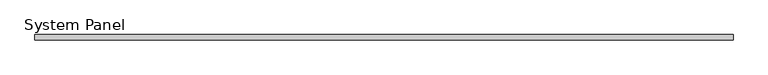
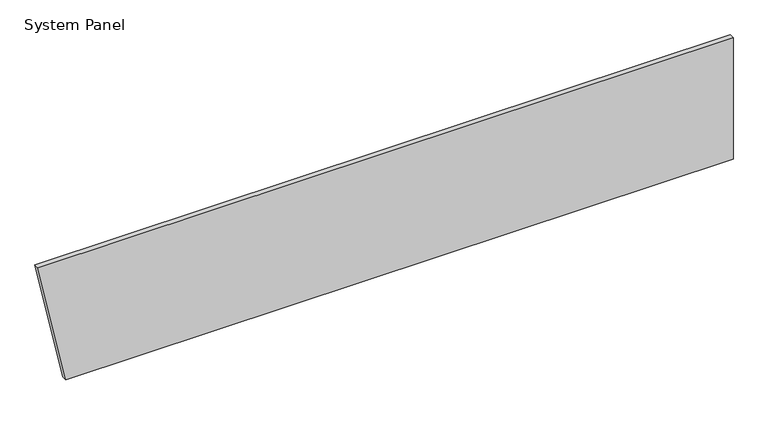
"""IFC4 building model written with IfcOpenShell, lengths in millimetres: plate geometry, System Panel : Equitilt_FlameGuard_50mm_Plain_Surfmist."""

from ifc_helpers import new_model, si_unit, frame, origin, place, context, project, spatial, polyline, outline, extrude, source, transform, mapped, element, save


def system_panel_d652f9f4(model_context):
    return source(origin(), model_context, "Body", "SweptSolid", [
        extrude(outline(polyline([(0.0, -2995.0), (0.0, 3255.8716619), (1200.0, 3255.8716619), (1200.0, -3255.8716619), (0.0, -2995.0)])), frame((0.0, -50.0, 0.0), z_axis=(0.0, 1.0, 0.0), x_axis=(0.0, 0.0, 1.0)), (0.0, 0.0, 1.0), 50.0),
    ])


if __name__ == "__main__":
    model = new_model("IFC4")
    model_context = context("Model", 3, world=origin())
    ifc_project = project(units=[si_unit("LENGTHUNIT", "METRE", prefix="MILLI")], contexts=[model_context])
    site = spatial("IfcSite", under=ifc_project)
    building = spatial("IfcBuilding", under=site)
    placement = place(None, origin())
    system_panel_shape = system_panel_d652f9f4(model_context)
    element("IfcPlate", 1, ObjectType="System Panel : Equitilt_FlameGuard_50mm_Plain_Surfmist", at=placement, inside=building, context=model_context, shape_type="MappedRepresentation", body=[
        mapped(system_panel_shape, transform((0.0, 0.0, 0.0), x_axis=(1.0, 0.0, 0.0), y_axis=(0.0, 1.0, 0.0), z_axis=(0.0, 0.0, 1.0))),
    ])
    save(model, "model.ifc")
